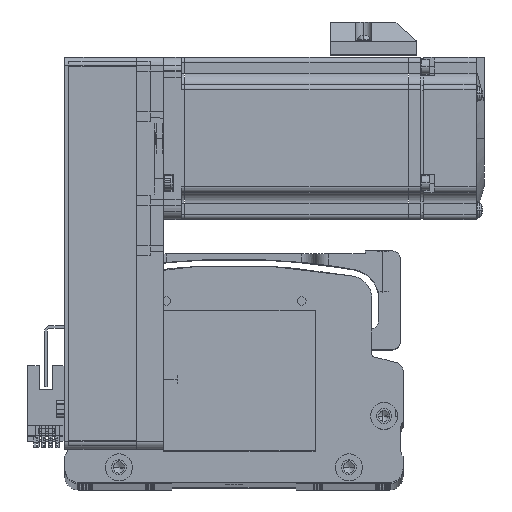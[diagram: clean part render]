
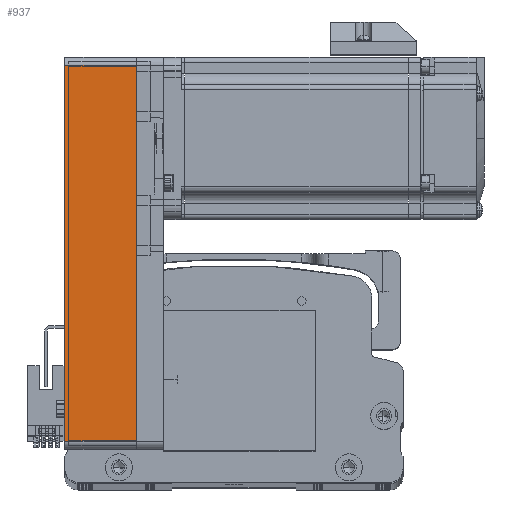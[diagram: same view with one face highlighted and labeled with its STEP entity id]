
A CAD part, top view. The second image highlights one B-rep face of the part: STEP entity #937.
In plain terms, the highlighted planar face has unit normal (0, 0, 1) as drawn and (0, -1, 0) by its records, which use the part's own axes.
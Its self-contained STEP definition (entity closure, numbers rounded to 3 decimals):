
#937 = ADVANCED_FACE ( 'NONE', ( #57759 ), #85358, .F. ) ;
#3595 = CARTESIAN_POINT ( 'NONE',  ( 69.5, -30., 26.5 ) ) ;
#3710 = VERTEX_POINT ( 'NONE', #59396 ) ;
#4541 = ORIENTED_EDGE ( 'NONE', *, *, #19499, .T. ) ;
#8992 = CARTESIAN_POINT ( 'NONE',  ( -69.5, -30., 26.5 ) ) ;
#9243 = AXIS2_PLACEMENT_3D ( 'NONE', #51809, #11068, #58547 ) ;
#10948 = CARTESIAN_POINT ( 'NONE',  ( 69.5, -30., 26.5 ) ) ;
#11068 = DIRECTION ( 'NONE',  ( 0., 1., 0. ) ) ;
#13660 = VECTOR ( 'NONE', #58423, 1000. ) ;
#16732 = EDGE_CURVE ( 'NONE', #19222, #29236, #34210, .T. ) ;
#19185 = CARTESIAN_POINT ( 'NONE',  ( 69.5, -30., 0. ) ) ;
#19222 = VERTEX_POINT ( 'NONE', #8992 ) ;
#19499 = EDGE_CURVE ( 'NONE', #19222, #3710, #54695, .T. ) ;
#21896 = ORIENTED_EDGE ( 'NONE', *, *, #45505, .T. ) ;
#22205 = CARTESIAN_POINT ( 'NONE',  ( 72.5, -30., 26.5 ) ) ;
#26141 = ORIENTED_EDGE ( 'NONE', *, *, #86735, .T. ) ;
#27697 = VERTEX_POINT ( 'NONE', #19185 ) ;
#29087 = DIRECTION ( 'NONE',  ( 1., 0., 0. ) ) ;
#29236 = VERTEX_POINT ( 'NONE', #3595 ) ;
#31256 = CARTESIAN_POINT ( 'NONE',  ( 72.5, -30., 0. ) ) ;
#34210 = LINE ( 'NONE', #22205, #68178 ) ;
#34483 = VECTOR ( 'NONE', #81723, 1000. ) ;
#45505 = EDGE_CURVE ( 'NONE', #27697, #29236, #67865, .T. ) ;
#46089 = CARTESIAN_POINT ( 'NONE',  ( -69.5, -30., 26.5 ) ) ;
#48664 = ORIENTED_EDGE ( 'NONE', *, *, #16732, .F. ) ;
#51462 = EDGE_LOOP ( 'NONE', ( #26141, #21896, #48664, #4541 ) ) ;
#51809 = CARTESIAN_POINT ( 'NONE',  ( 72.5, -30., 26.5 ) ) ;
#54695 = LINE ( 'NONE', #46089, #34483 ) ;
#57759 = FACE_OUTER_BOUND ( 'NONE', #51462, .T. ) ;
#58423 = DIRECTION ( 'NONE',  ( 0., 0., 1. ) ) ;
#58547 = DIRECTION ( 'NONE',  ( -1., 0., 0. ) ) ;
#59396 = CARTESIAN_POINT ( 'NONE',  ( -69.5, -30., 0. ) ) ;
#62911 = LINE ( 'NONE', #31256, #78814 ) ;
#67865 = LINE ( 'NONE', #10948, #13660 ) ;
#68178 = VECTOR ( 'NONE', #29087, 1000. ) ;
#78814 = VECTOR ( 'NONE', #85623, 1000. ) ;
#81723 = DIRECTION ( 'NONE',  ( 0., 0., -1. ) ) ;
#85358 = PLANE ( 'NONE',  #9243 ) ;
#85623 = DIRECTION ( 'NONE',  ( 1., 0., 0. ) ) ;
#86735 = EDGE_CURVE ( 'NONE', #3710, #27697, #62911, .T. ) ;
